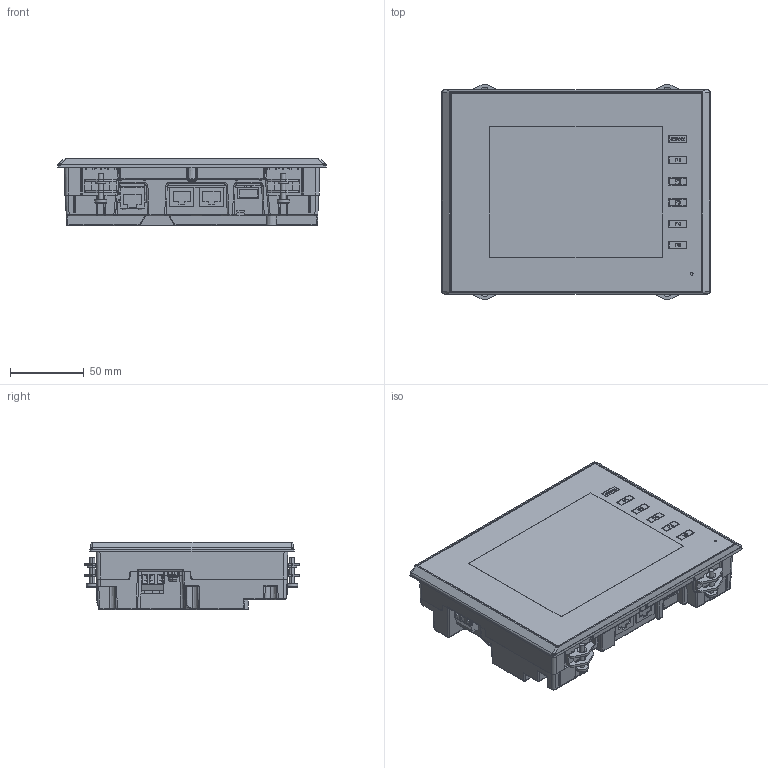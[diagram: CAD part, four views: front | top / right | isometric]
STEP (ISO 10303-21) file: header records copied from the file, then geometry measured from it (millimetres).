
FILE_DESCRIPTION((''),'2;1');
FILE_NAME('TS2060I_3D-DATA','2016-05-06T',('oda'),('Hakko Electronics Co.,Ltd.'),'PRO/ENGINEER BY PARAMETRIC TECHNOLOGY CORPORATION, 2011330','PRO/ENGINEER BY PARAMETRIC TECHNOLOGY CORPORATION, 2011330','');
FILE_SCHEMA(('CONFIG_CONTROL_DESIGN'));
Products named in the file (1): TS2060I_3D-DATA
Bounding box: 182.5 x 146.7 x 45.8 mm (x, y, z)
Volume: 930350.5 mm3; surface area: 94155.2 mm2
Topology: 1 solids, 1 shells, 2577 faces, 6931 edges, 4462 vertices
Faces by surface type: plane 1881, cylinder 462, bspline 87, sphere 55, torus 50, cone 40, extrusion 2
Entity records: 89050 total; most frequent: CARTESIAN_POINT 25210, ORIENTED_EDGE 13854, DIRECTION 12186, EDGE_CURVE 6927, VECTOR 5602, LINE 5600, VERTEX_POINT 4462, AXIS2_PLACEMENT_3D 3292
